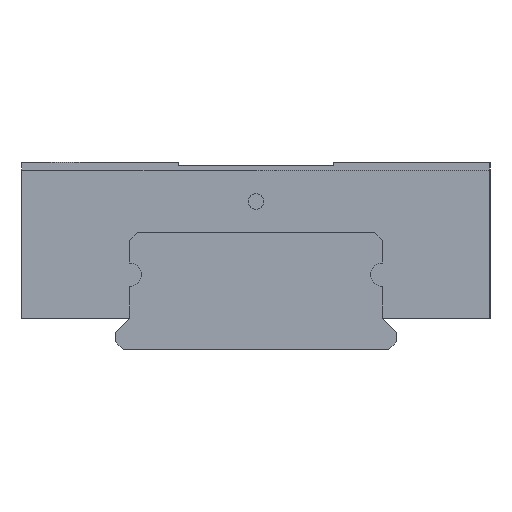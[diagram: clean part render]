
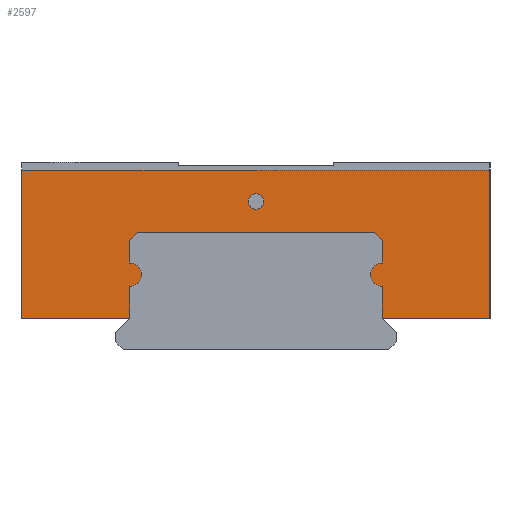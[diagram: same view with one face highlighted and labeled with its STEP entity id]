
A CAD part, left-side view. The second image highlights one B-rep face of the part: STEP entity #2597.
In plain terms, the highlighted planar face has unit normal (-1, 0, 0).
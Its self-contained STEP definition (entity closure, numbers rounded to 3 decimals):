
#1813=CARTESIAN_POINT('',(62.435,0.5,9.5));
#1814=VERTEX_POINT('',#1813);
#1815=CARTESIAN_POINT('',(62.435,0.0,9.5));
#1816=DIRECTION('',(1.0,0.0,0.0));
#1817=DIRECTION('',(0.0,-1.0,0.0));
#1818=AXIS2_PLACEMENT_3D('',#1815,#1816,#1817);
#1819=CIRCLE('',#1818,0.5);
#1820=EDGE_CURVE('',#1814,#1814,#1819,.T.);
#2086=CARTESIAN_POINT('',(62.435,15.,11.5));
#2087=VERTEX_POINT('',#2086);
#2094=CARTESIAN_POINT('',(62.435,-15.0,11.5));
#2095=VERTEX_POINT('',#2094);
#2096=CARTESIAN_POINT('',(62.435,-15.0,11.5));
#2097=DIRECTION('',(0.0,1.0,0.0));
#2098=VECTOR('',#2097,30.);
#2099=LINE('',#2096,#2098);
#2100=EDGE_CURVE('',#2095,#2087,#2099,.T.);
#2155=CARTESIAN_POINT('',(62.435,15.,2.0));
#2156=VERTEX_POINT('',#2155);
#2163=CARTESIAN_POINT('',(62.435,15.,11.5));
#2164=DIRECTION('',(0.0,0.0,-1.0));
#2165=VECTOR('',#2164,9.5);
#2166=LINE('',#2163,#2165);
#2167=EDGE_CURVE('',#2087,#2156,#2166,.T.);
#2190=CARTESIAN_POINT('',(62.435,8.1,2.0));
#2191=VERTEX_POINT('',#2190);
#2198=CARTESIAN_POINT('',(62.435,15.,2.0));
#2199=DIRECTION('',(0.0,-1.0,0.0));
#2200=VECTOR('',#2199,6.9);
#2201=LINE('',#2198,#2200);
#2202=EDGE_CURVE('',#2156,#2191,#2201,.T.);
#2221=CARTESIAN_POINT('',(62.435,8.1,4.05));
#2222=VERTEX_POINT('',#2221);
#2229=CARTESIAN_POINT('',(62.435,8.1,2.0));
#2230=DIRECTION('',(0.0,0.0,1.0));
#2231=VECTOR('',#2230,2.05);
#2232=LINE('',#2229,#2231);
#2233=EDGE_CURVE('',#2191,#2222,#2232,.T.);
#2253=CARTESIAN_POINT('',(62.435,8.1,5.55));
#2254=VERTEX_POINT('',#2253);
#2261=CARTESIAN_POINT('',(62.435,8.1,4.8));
#2262=DIRECTION('',(-1.0,0.0,0.0));
#2263=DIRECTION('',(0.0,0.0,-1.0));
#2264=AXIS2_PLACEMENT_3D('',#2261,#2262,#2263);
#2265=CIRCLE('',#2264,0.75);
#2266=EDGE_CURVE('',#2222,#2254,#2265,.T.);
#2285=CARTESIAN_POINT('',(62.435,8.1,7.));
#2286=VERTEX_POINT('',#2285);
#2293=CARTESIAN_POINT('',(62.435,8.1,5.55));
#2294=DIRECTION('',(0.0,0.0,1.0));
#2295=VECTOR('',#2294,1.45);
#2296=LINE('',#2293,#2295);
#2297=EDGE_CURVE('',#2254,#2286,#2296,.T.);
#2316=CARTESIAN_POINT('',(62.435,7.6,7.5));
#2317=VERTEX_POINT('',#2316);
#2324=CARTESIAN_POINT('',(62.435,8.1,7.));
#2325=DIRECTION('',(0.0,-0.707,0.707));
#2326=VECTOR('',#2325,0.707);
#2327=LINE('',#2324,#2326);
#2328=EDGE_CURVE('',#2286,#2317,#2327,.T.);
#2347=CARTESIAN_POINT('',(62.435,-7.6,7.5));
#2348=VERTEX_POINT('',#2347);
#2355=CARTESIAN_POINT('',(62.435,7.6,7.5));
#2356=DIRECTION('',(0.0,-1.0,0.0));
#2357=VECTOR('',#2356,15.2);
#2358=LINE('',#2355,#2357);
#2359=EDGE_CURVE('',#2317,#2348,#2358,.T.);
#2378=CARTESIAN_POINT('',(62.435,-8.1,7.));
#2379=VERTEX_POINT('',#2378);
#2386=CARTESIAN_POINT('',(62.435,-7.6,7.5));
#2387=DIRECTION('',(0.0,-0.707,-0.707));
#2388=VECTOR('',#2387,0.707);
#2389=LINE('',#2386,#2388);
#2390=EDGE_CURVE('',#2348,#2379,#2389,.T.);
#2409=CARTESIAN_POINT('',(62.435,-8.1,5.55));
#2410=VERTEX_POINT('',#2409);
#2417=CARTESIAN_POINT('',(62.435,-8.1,7.));
#2418=DIRECTION('',(0.0,0.0,-1.0));
#2419=VECTOR('',#2418,1.45);
#2420=LINE('',#2417,#2419);
#2421=EDGE_CURVE('',#2379,#2410,#2420,.T.);
#2441=CARTESIAN_POINT('',(62.435,-8.1,4.05));
#2442=VERTEX_POINT('',#2441);
#2449=CARTESIAN_POINT('',(62.435,-8.1,4.8));
#2450=DIRECTION('',(-1.0,0.0,0.0));
#2451=DIRECTION('',(0.0,0.0,1.0));
#2452=AXIS2_PLACEMENT_3D('',#2449,#2450,#2451);
#2453=CIRCLE('',#2452,0.75);
#2454=EDGE_CURVE('',#2410,#2442,#2453,.T.);
#2473=CARTESIAN_POINT('',(62.435,-8.1,2.0));
#2474=VERTEX_POINT('',#2473);
#2481=CARTESIAN_POINT('',(62.435,-8.1,4.05));
#2482=DIRECTION('',(0.0,0.0,-1.0));
#2483=VECTOR('',#2482,2.05);
#2484=LINE('',#2481,#2483);
#2485=EDGE_CURVE('',#2442,#2474,#2484,.T.);
#2504=CARTESIAN_POINT('',(62.435,-15.0,2.0));
#2505=VERTEX_POINT('',#2504);
#2512=CARTESIAN_POINT('',(62.435,-8.1,2.0));
#2513=DIRECTION('',(0.0,-1.0,0.0));
#2514=VECTOR('',#2513,6.9);
#2515=LINE('',#2512,#2514);
#2516=EDGE_CURVE('',#2474,#2505,#2515,.T.);
#2538=CARTESIAN_POINT('',(62.435,-15.0,2.0));
#2539=DIRECTION('',(0.0,0.0,1.0));
#2540=VECTOR('',#2539,9.5);
#2541=LINE('',#2538,#2540);
#2542=EDGE_CURVE('',#2505,#2095,#2541,.T.);
#2573=CARTESIAN_POINT('',(62.435,0.,7.444));
#2574=DIRECTION('',(1.0,0.0,0.0));
#2575=DIRECTION('',(0.0,0.0,-1.0));
#2576=AXIS2_PLACEMENT_3D('',#2573,#2574,#2575);
#2577=PLANE('',#2576);
#2578=ORIENTED_EDGE('',*,*,#2542,.T.);
#2579=ORIENTED_EDGE('',*,*,#2100,.T.);
#2580=ORIENTED_EDGE('',*,*,#2167,.T.);
#2581=ORIENTED_EDGE('',*,*,#2202,.T.);
#2582=ORIENTED_EDGE('',*,*,#2233,.T.);
#2583=ORIENTED_EDGE('',*,*,#2266,.T.);
#2584=ORIENTED_EDGE('',*,*,#2297,.T.);
#2585=ORIENTED_EDGE('',*,*,#2328,.T.);
#2586=ORIENTED_EDGE('',*,*,#2359,.T.);
#2587=ORIENTED_EDGE('',*,*,#2390,.T.);
#2588=ORIENTED_EDGE('',*,*,#2421,.T.);
#2589=ORIENTED_EDGE('',*,*,#2454,.T.);
#2590=ORIENTED_EDGE('',*,*,#2485,.T.);
#2591=ORIENTED_EDGE('',*,*,#2516,.T.);
#2592=EDGE_LOOP('',(#2578,#2579,#2580,#2581,#2582,#2583,#2584,#2585,#2586,#2587,#2588,#2589,#2590,#2591));
#2593=FACE_OUTER_BOUND('',#2592,.T.);
#2594=ORIENTED_EDGE('',*,*,#1820,.T.);
#2595=EDGE_LOOP('',(#2594));
#2596=FACE_BOUND('',#2595,.T.);
#2597=ADVANCED_FACE('',(#2593,#2596),#2577,.F.);
